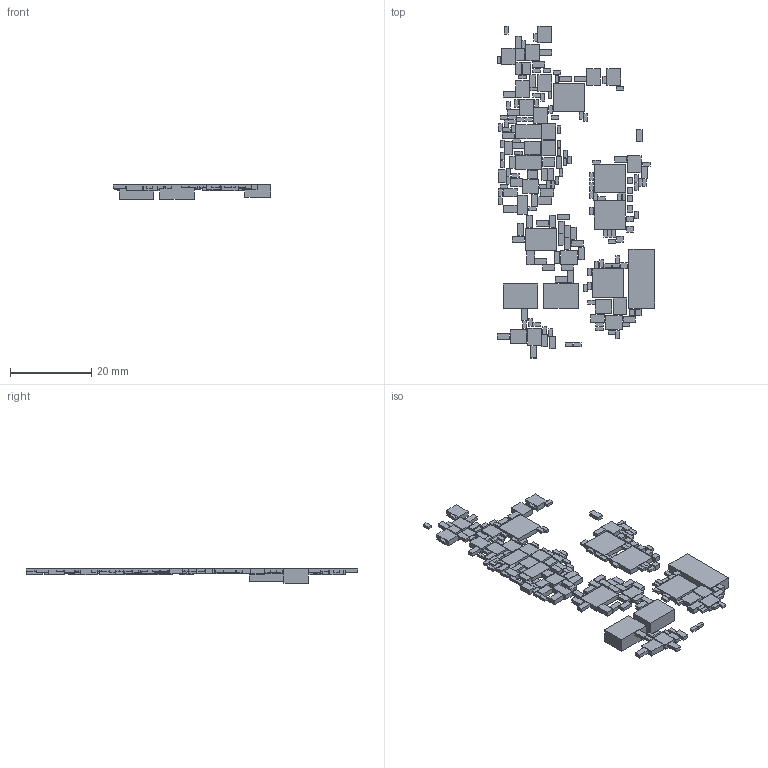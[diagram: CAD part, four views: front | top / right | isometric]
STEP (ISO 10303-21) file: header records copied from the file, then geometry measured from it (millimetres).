
FILE_DESCRIPTION(('Open CASCADE Model'),'2;1');
FILE_NAME('Open CASCADE Shape Model','2026-09-10T00:40:46',('Author'),( 'Open CASCADE'),'Open CASCADE STEP processor 7.8','Open CASCADE 7.8' ,'Unknown');
FILE_SCHEMA(('AUTOMOTIVE_DESIGN { 1 0 10303 214 1 1 1 1 }'));
Length unit declared in the file: millimetre
Products named in the file (193): Open CASCADE STEP translator 7.8 5; Open CASCADE STEP translator 7.8 5.1; Open CASCADE STEP translator 7.8 5.2; Open CASCADE STEP translator 7.8 5.3; Open CASCADE STEP translator 7.8 5.4; Open CASCADE STEP translator 7.8 5.5; Open CASCADE STEP translator 7.8 5.6; Open CASCADE STEP translator 7.8 5.7; Open CASCADE STEP translator 7.8 5.8; Open CASCADE STEP translator 7.8 5.9; Open CASCADE STEP translator 7.8 5.10; Open CASCADE STEP translator 7.8 5.11; Open CASCADE STEP translator 7.8 5.12; Open CASCADE STEP translator 7.8 5.13; Open CASCADE STEP translator 7.8 5.14; Open CASCADE STEP translator 7.8 5.15; Open CASCADE STEP translator 7.8 5.16; Open CASCADE STEP translator 7.8 5.17; Open CASCADE STEP translator 7.8 5.18; Open CASCADE STEP translator 7.8 5.19; Open CASCADE STEP translator 7.8 5.20; Open CASCADE STEP translator 7.8 5.21; Open CASCADE STEP translator 7.8 5.22; Open CASCADE STEP translator 7.8 5.23; Open CASCADE STEP translator 7.8 5.24; Open CASCADE STEP translator 7.8 5.25; Open CASCADE STEP translator 7.8 5.26; Open CASCADE STEP translator 7.8 5.27; Open CASCADE STEP translator 7.8 5.28; Open CASCADE STEP translator 7.8 5.29; Open CASCADE STEP translator 7.8 5.30; Open CASCADE STEP translator 7.8 5.31; Open CASCADE STEP translator 7.8 5.32; Open CASCADE STEP translator 7.8 5.33; Open CASCADE STEP translator 7.8 5.34; Open CASCADE STEP translator 7.8 5.35; Open CASCADE STEP translator 7.8 5.36; Open CASCADE STEP translator 7.8 5.37; Open CASCADE STEP translator 7.8 5.38; Open CASCADE STEP translator 7.8 5.39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
Assembly tree (192 placements, depth 2):
  Open CASCADE STEP translator 7.8 5
    Open CASCADE STEP translator 7.8 5.1
    Open CASCADE STEP translator 7.8 5.2
    Open CASCADE STEP translator 7.8 5.3
    Open CASCADE STEP translator 7.8 5.4
    Open CASCADE STEP translator 7.8 5.5
    Open CASCADE STEP translator 7.8 5.6
    Open CASCADE STEP translator 7.8 5.7
    Open CASCADE STEP translator 7.8 5.8
    Open CASCADE STEP translator 7.8 5.9
    Open CASCADE STEP translator 7.8 5.10
    Open CASCADE STEP translator 7.8 5.11
    Open CASCADE STEP translator 7.8 5.12
    Open CASCADE STEP translator 7.8 5.13
    Open CASCADE STEP translator 7.8 5.14
    Open CASCADE STEP translator 7.8 5.15
    Open CASCADE STEP translator 7.8 5.16
    Open CASCADE STEP translator 7.8 5.17
    Open CASCADE STEP translator 7.8 5.18
    Open CASCADE STEP translator 7.8 5.19
    Open CASCADE STEP translator 7.8 5.20
    Open CASCADE STEP translator 7.8 5.21
    Open CASCADE STEP translator 7.8 5.22
    Open CASCADE STEP translator 7.8 5.23
    Open CASCADE STEP translator 7.8 5.24
    Open CASCADE STEP translator 7.8 5.25
    Open CASCADE STEP translator 7.8 5.26
    Open CASCADE STEP translator 7.8 5.27
    Open CASCADE STEP translator 7.8 5.28
    Open CASCADE STEP translator 7.8 5.29
    Open CASCADE STEP translator 7.8 5.30
    Open CASCADE STEP translator 7.8 5.31
    Open CASCADE STEP translator 7.8 5.32
    Open CASCADE STEP translator 7.8 5.33
    Open CASCADE STEP translator 7.8 5.34
    Open CASCADE STEP translator 7.8 5.35
    Open CASCADE STEP translator 7.8 5.36
    Open CASCADE STEP translator 7.8 5.37
    Open CASCADE STEP translator 7.8 5.38
    Open CASCADE STEP translator 7.8 5.39
    Open CASCADE STEP translator 7.8 5.40
    Open CASCADE STEP translator 7.8 5.41
    Open CASCADE STEP translator 7.8 5.42
    Open CASCADE STEP translator 7.8 5.43
    Open CASCADE STEP translator 7.8 5.44
    Open CASCADE STEP translator 7.8 5.45
    Open CASCADE STEP translator 7.8 5.46
    Open CASCADE STEP translator 7.8 5.47
    Open CASCADE STEP translator 7.8 5.48
    Open CASCADE STEP translator 7.8 5.49
    Open CASCADE STEP translator 7.8 5.50
    Open CASCADE STEP translator 7.8 5.51
    Open CASCADE STEP translator 7.8 5.52
    Open CASCADE STEP translator 7.8 5.53
    Open CASCADE STEP translator 7.8 5.54
    Open CASCADE STEP translator 7.8 5.55
    Open CASCADE STEP translator 7.8 5.56
    Open CASCADE STEP translator 7.8 5.57
    Open CASCADE STEP translator 7.8 5.58
    Open CASCADE STEP translator 7.8 5.59
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Bounding box: 38.83 x 81.78 x 3.5 mm (x, y, z)
Volume: 1832.4 mm3; surface area: 4420.3 mm2
Topology: 192 solids, 192 shells, 1152 faces, 2304 edges, 1536 vertices
Faces by surface type: plane 1152
Entity records: 62224 total; most frequent: CARTESIAN_POINT 9793, DIRECTION 9602, LINE 6912, VECTOR 6912, ORIENTED_EDGE 4608, PCURVE 4608, DEFINITIONAL_REPRESENTATION 4608, EDGE_CURVE 2304
